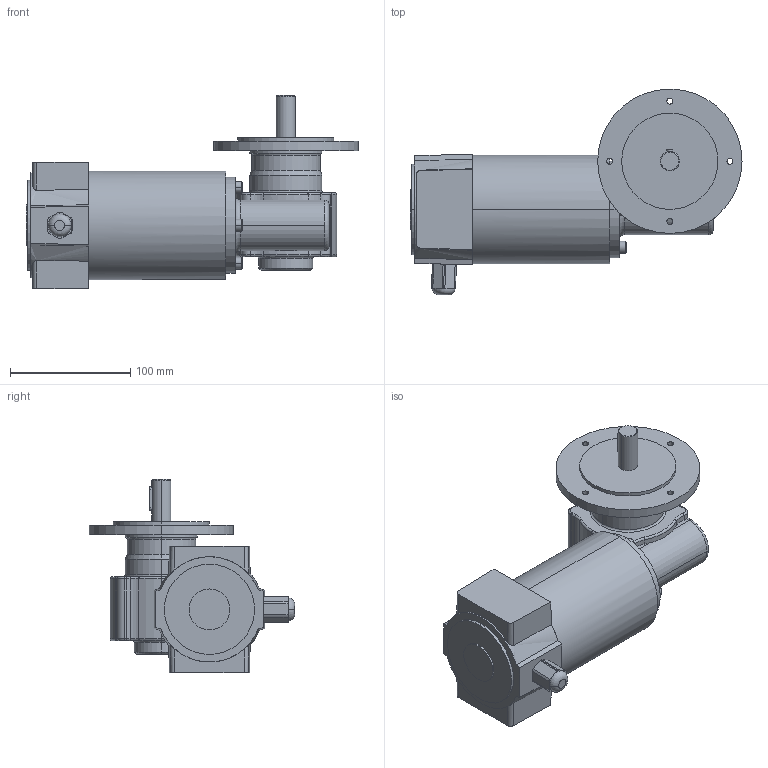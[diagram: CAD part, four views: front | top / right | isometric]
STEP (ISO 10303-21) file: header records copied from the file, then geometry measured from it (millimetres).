
FILE_DESCRIPTION(('OneSpaceDesigner STEP Export'),'2;1');
FILE_NAME('EPG21_GF146.stp','2008-07-15T10:19:56',(''),(''),'OneSpace Designer STEP processor (Jan. 2003) for AP214(CD)(Solid Model)','OneSpace Designer 12.01D 09-Jul-2004 (C) CoCreate Software GmbH','');
FILE_SCHEMA(('AUTOMOTIVE_DESIGN_CC2 {1 2 10303 214 -1 1 5 1}'));
Length unit declared in the file: millimetre
Products named in the file (2): EPG21_GF146
Assembly tree (1 placements, depth 2):
  EPG21_GF146
    EPG21_GF146
Bounding box: 276 x 170.99 x 160.5 mm (x, y, z)
Volume: 1774668.8 mm3; surface area: 127433.1 mm2
Topology: 1 solids, 1 shells, 214 faces, 515 edges, 318 vertices
Faces by surface type: cylinder 91, torus 62, plane 46, cone 12, bspline 3
Entity records: 8789 total; most frequent: CARTESIAN_POINT 4173, ORIENTED_EDGE 1030, DIRECTION 862, EDGE_CURVE 515, AXIS2_PLACEMENT_3D 351, VERTEX_POINT 318, EDGE_LOOP 237, FACE_OUTER_BOUND 214
